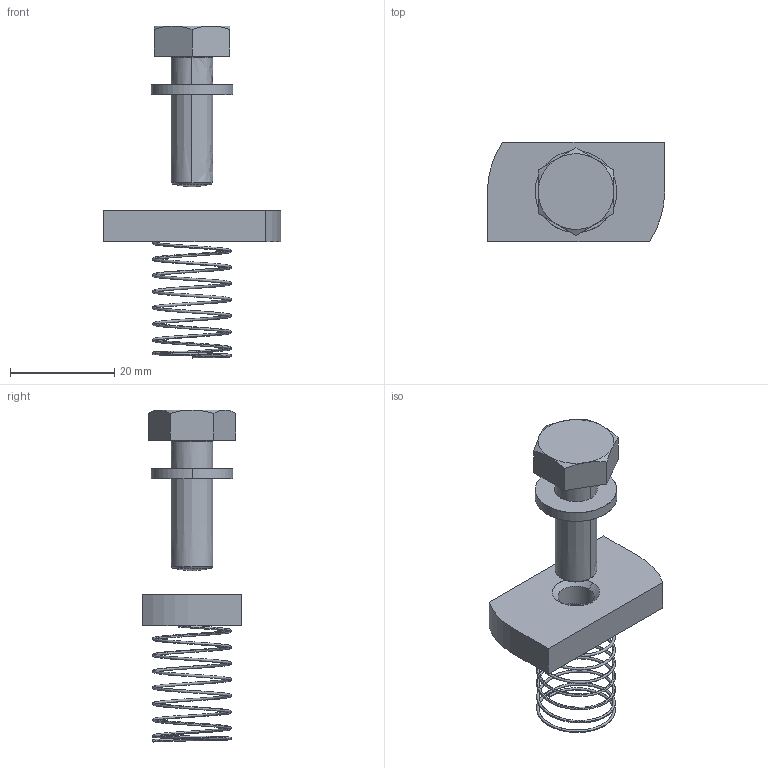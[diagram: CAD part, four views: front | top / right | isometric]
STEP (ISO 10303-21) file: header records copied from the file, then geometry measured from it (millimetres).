
FILE_DESCRIPTION(/* description */ (''),/* implementation_level */ '2;1');
FILE_NAME(/* name */ 'MSM M8',/* time_stamp */ '2012-11-29T22:50:54+01:00',/* author */ (''),/* organization */ (''),/* preprocessor_version */ 'ST-DEVELOPER v10',/* originating_system */ '',/* authorisation */ '');
FILE_SCHEMA (('AUTOMOTIVE_DESIGN_CC2'));
Length unit declared in the file: millimetre
Products named in the file (1): 1
Bounding box: 34 x 19 x 63.74 mm (x, y, z)
Surface area: 4154.8 mm2 (no closed solid volume)
Topology: 0 solids, 38 shells, 49 faces, 174 edges, 155 vertices
Faces by surface type: bspline 30, plane 19
Entity records: 8756 total; most frequent: CARTESIAN_POINT 7496, ORIENTED_EDGE 189, EDGE_CURVE 167, VERTEX_POINT 146, B_SPLINE_CURVE_WITH_KNOTS 108, EDGE_LOOP 54, ADVANCED_FACE 49, FACE_OUTER_BOUND 49
